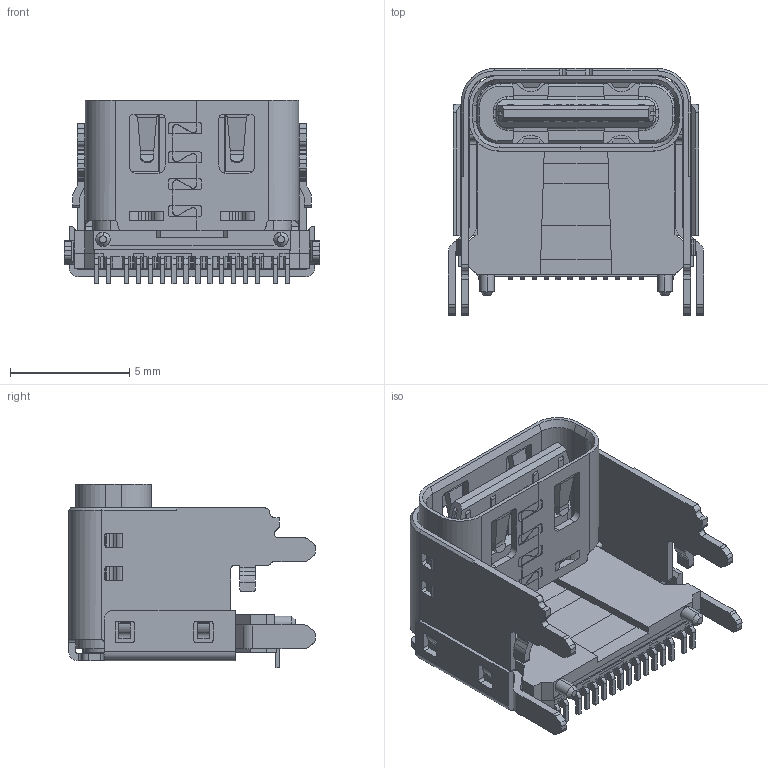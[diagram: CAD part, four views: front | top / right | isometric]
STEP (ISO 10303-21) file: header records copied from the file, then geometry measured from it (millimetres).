
FILE_DESCRIPTION (( 'STEP AP203' ), '1' );
FILE_NAME ('GT-USB-9016G .STEP', '2025-04-19T06:28:00', ( '' ), ( '' ), 'SwSTEP 2.0', 'SolidWorks 2023', '' );
FILE_SCHEMA (( 'CONFIG_CONTROL_DESIGN' ));
Products named in the file (1): GT-USB-9016G 
Bounding box: 10.7 x 10.34 x 7.7 mm (x, y, z)
Volume: 244.1 mm3; surface area: 1066.3 mm2
Topology: 1 solids, 30 shells, 1971 faces, 5457 edges, 3532 vertices
Faces by surface type: plane 1420, cylinder 434, bspline 88, cone 25, torus 4
Entity records: 66652 total; most frequent: CARTESIAN_POINT 17086, ORIENTED_EDGE 10902, DIRECTION 9342, EDGE_CURVE 5451, LINE 4206, VECTOR 4206, VERTEX_POINT 3529, AXIS2_PLACEMENT_3D 2568
